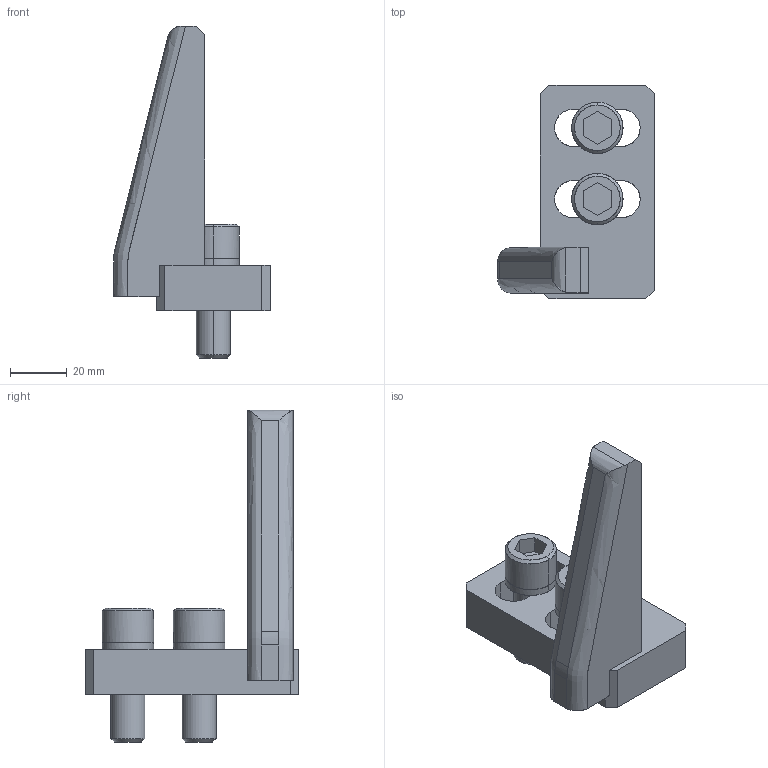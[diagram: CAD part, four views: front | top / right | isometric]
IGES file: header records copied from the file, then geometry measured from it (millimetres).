
Global section: file name: E:\UnigraphicsGraphicData\MISUMI_PRESS-PARTS\IGES\3d_nggbl-100-20-20_01484_r00.igs; native system: NX V5.0; preprocessor: UGS NX IGES V5.0; author: MISUMI; date: 20110105.162031; units: millimetre
Bounding box: 55 x 75 x 116.5 mm (x, y, z)
Surface area: 25395 mm2 (no closed solid volume)
Topology: 0 solids, 0 shells, 103 faces, 660 edges, 660 vertices
Faces by surface type: bspline 103
